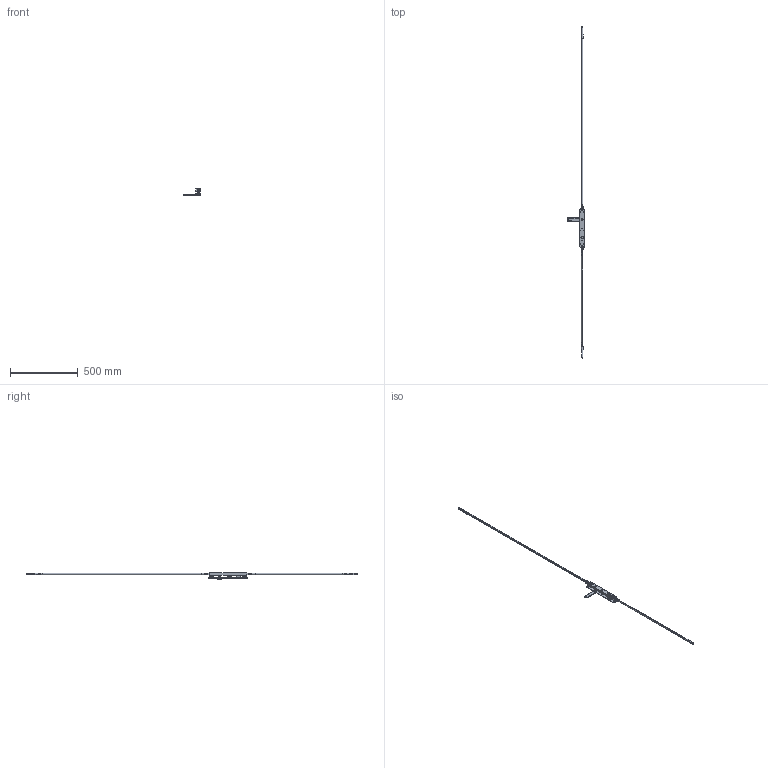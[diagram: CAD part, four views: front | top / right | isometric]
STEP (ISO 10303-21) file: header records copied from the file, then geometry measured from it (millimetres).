
FILE_DESCRIPTION (( 'STEP AP214' ), '1' );
FILE_NAME ('TPL-H-APC-104-B 17Oct2024.STEP', '2024-10-17T04:35:10', ( '' ), ( '' ), 'SwSTEP 2.0', 'SolidWorks 2023', '' );
FILE_SCHEMA (( 'AUTOMOTIVE_DESIGN' ));
Length unit declared in the file: millimetre
Products named in the file (17): Copy of LKC-576 Bolt adaptor - simplified^TPL-H-APC-605 16Oct2024; Copy of TPLGen2 lock body keyed assembly^TPL-H-APC-605 16Oct2024_Bolts retracted - left; Copy of LKC-586 Spindle square 8mm with M4 hole^Copy of TPGen2 handle keyed internal zinc - simplified_TPL-H-APC-605 16Oct2024_37mm; Copy (2) of LKC-540 Transmission rod aluminium system TPLGen2^TPL-H-APC-605 16Oct2024_2885mm; Copy of LKC-512 Escutcheon plate keyed internal 285mm long zinc - simplified^Copy of TPGen2 handle keyed internal zinc - simplified_TPL-H-APC-605 16Oct2024; Copy of TPL-023 Lock cylinder single 5 pin 32mm^TPL-H-APC-605 16Oct2024_Left; Copy of LKC-505 Swing handle zinc - simplified^Copy of TPGen2 handle keyed internal zinc - simplified_TPL-H-APC-605 16Oct2024; Copy of LKC-585 Rotator body zinc^Copy of TPGen2 handle keyed internal zinc - simplified_TPL-H-APC-605 16Oct2024; Copy of LKC-540 Transmission rod aluminium system TPLGen2^TPL-H-APC-605 16Oct2024_2885mm; Copy of TPL-H-APC-515 04Oct2024^TPL-H-APC-605 16Oct2024; Copy of LKC-532 Rod connector - simplified^TPL-H-APC-605 16Oct2024; Copy of LKC-584 Pivot body zinc - simplified^Copy of TPGen2 handle keyed internal zinc - simplified_TPL-H-APC-605 16Oct2024; TPL-H-APC-104-B 17Oct2024; Copy of TPL-H-APC-517 04Oct2024^TPL-H-APC-605 16Oct2024; Copy of TPGen2 handle keyed internal zinc - simplified^TPL-H-APC-605 16Oct2024_Right; Copy of TPLGen2 lock body keyed^Copy of TPLGen2 lock body keyed assembly_TPL-H-APC-605 16Oct2024_Left; Copy of TPLGen2 push rod - simplified^Copy of TPLGen2 lock body keyed assembly_TPL-H-APC-605 16Oct2024_Female thread M10
Assembly tree (22 placements, depth 3):
  TPL-H-APC-104-B 17Oct2024
    Copy of TPLGen2 lock body keyed assembly^TPL-H-APC-605 16Oct2024_Bolts retracted - left
      Copy of TPLGen2 lock body keyed^Copy of TPLGen2 lock body keyed assembly_TPL-H-APC-605 16Oct2024_Left
      Copy of TPLGen2 push rod - simplified^Copy of TPLGen2 lock body keyed assembly_TPL-H-APC-605 16Oct2024_Female thread M10  x2
    Copy of TPGen2 handle keyed internal zinc - simplified^TPL-H-APC-605 16Oct2024_Right
      Copy of LKC-512 Escutcheon plate keyed internal 285mm long zinc - simplified^Copy of TPGen2 handle keyed internal zinc - simplified_TPL-H-APC-605 16Oct2024
      Copy of LKC-505 Swing handle zinc - simplified^Copy of TPGen2 handle keyed internal zinc - simplified_TPL-H-APC-605 16Oct2024
      Copy of LKC-585 Rotator body zinc^Copy of TPGen2 handle keyed internal zinc - simplified_TPL-H-APC-605 16Oct2024
      Copy of LKC-586 Spindle square 8mm with M4 hole^Copy of TPGen2 handle keyed internal zinc - simplified_TPL-H-APC-605 16Oct2024_37mm
      Copy of LKC-584 Pivot body zinc - simplified^Copy of TPGen2 handle keyed internal zinc - simplified_TPL-H-APC-605 16Oct2024
    Copy of LKC-532 Rod connector - simplified^TPL-H-APC-605 16Oct2024  x2
    Copy of LKC-540 Transmission rod aluminium system TPLGen2^TPL-H-APC-605 16Oct2024_2885mm
    Copy (2) of LKC-540 Transmission rod aluminium system TPLGen2^TPL-H-APC-605 16Oct2024_2885mm
    Copy of LKC-576 Bolt adaptor - simplified^TPL-H-APC-605 16Oct2024  x2
    Copy of TPL-H-APC-517 04Oct2024^TPL-H-APC-605 16Oct2024  x2
    Copy of TPL-H-APC-515 04Oct2024^TPL-H-APC-605 16Oct2024  x3
    Copy of TPL-023 Lock cylinder single 5 pin 32mm^TPL-H-APC-605 16Oct2024_Left
Bounding box: 125.62 x 2445.9 x 51.46 mm (x, y, z)
Volume: 341166.2 mm3; surface area: 230537.4 mm2
Topology: 20 solids, 20 shells, 1318 faces, 3204 edges, 1940 vertices
Faces by surface type: cylinder 430, plane 395, bspline 224, cone 123, torus 113, sphere 33
Entity records: 33145 total; most frequent: CARTESIAN_POINT 13167, ORIENTED_EDGE 4212, DIRECTION 3909, EDGE_CURVE 2106, AXIS2_PLACEMENT_3D 1549, VERTEX_POINT 1285, EDGE_LOOP 987, ADVANCED_FACE 888
